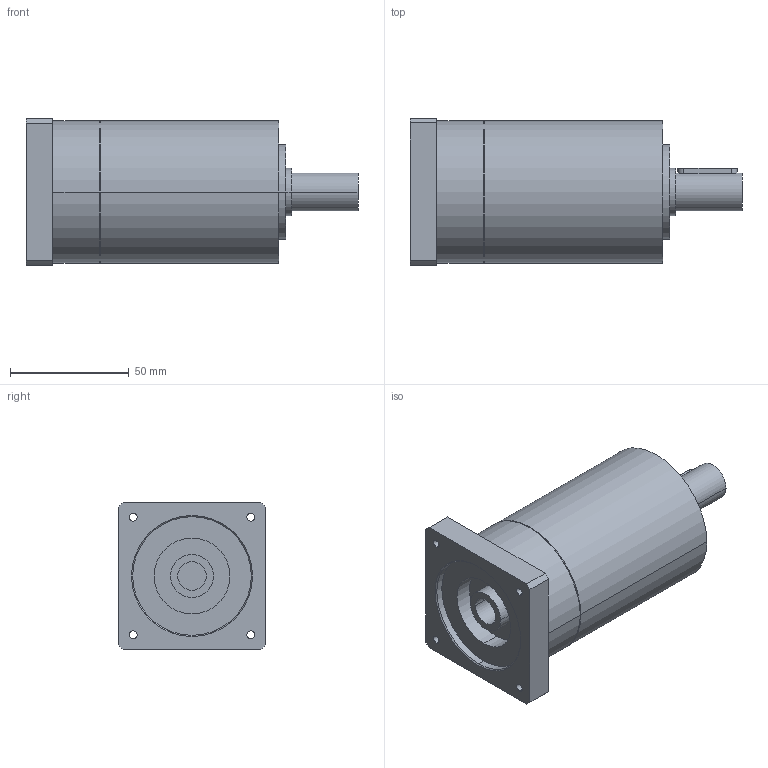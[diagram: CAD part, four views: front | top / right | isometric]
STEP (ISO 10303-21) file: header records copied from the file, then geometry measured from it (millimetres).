
FILE_DESCRIPTION(('CoCreate Modeling STEP Export'),'2;1');
FILE_NAME('GPR75_ig-9-12-16-20-24-30-36_16_B14_12_P31.stp','2014-08-25T16:32:55',(''),(''),'CoCreate Modeling STEP processor for AP214 (Solid Model)','CoCreate Modeling 16.00C 25-Feb-2009 (C) Parametric Technology GmbH','');
FILE_SCHEMA(('AUTOMOTIVE_DESIGN { 1 0 10303 214 1 1 1 1 }'));
Length unit declared in the file: millimetre
Products named in the file (2): GPR75_ig-9-12-16-20-24-30-36_16_B14_12_P31
Assembly tree (1 placements, depth 2):
  GPR75_ig-9-12-16-20-24-30-36_16_B14_12_P31
    GPR75_ig-9-12-16-20-24-30-36_16_B14_12_P31
Bounding box: 139.9 x 62 x 62 mm (x, y, z)
Volume: 306523.1 mm3; surface area: 34452.7 mm2
Topology: 1 solids, 1 shells, 72 faces, 194 edges, 136 vertices
Faces by surface type: cylinder 42, plane 22, cone 8
Entity records: 1989 total; most frequent: ORIENTED_EDGE 384, CARTESIAN_POINT 368, DIRECTION 268, EDGE_CURVE 192, VERTEX_POINT 136, AXIS2_PLACEMENT_3D 100, EDGE_LOOP 94, FACE_OUTER_BOUND 72
